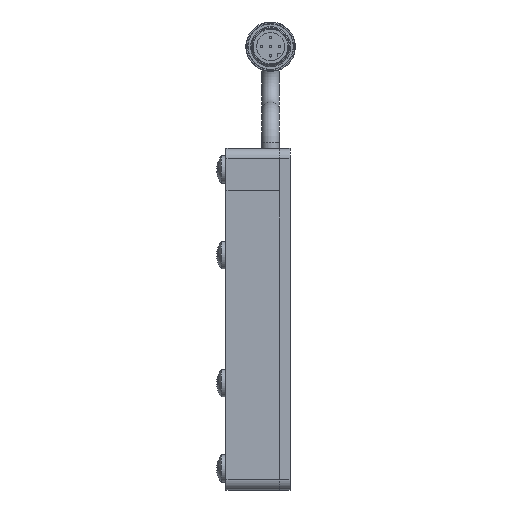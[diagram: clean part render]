
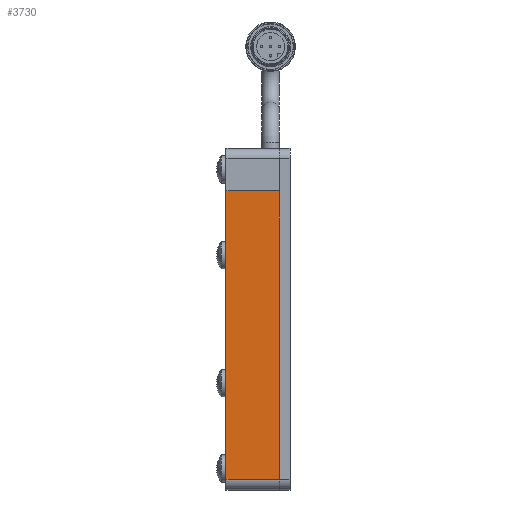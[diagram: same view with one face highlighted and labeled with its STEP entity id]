
A CAD part, left-side view. The second image highlights one B-rep face of the part: STEP entity #3730.
In plain terms, the highlighted planar face has unit normal (-1, 0, 0) as drawn and (0, 0, -1) by its records, which use the part's own axes.
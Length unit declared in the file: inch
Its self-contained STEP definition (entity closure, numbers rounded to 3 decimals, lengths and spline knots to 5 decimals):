
#372 = EDGE_CURVE ( 'NONE', #8029, #6136, #3649, .T. ) ;
#423 = AXIS2_PLACEMENT_3D ( 'NONE', #13426, #15998, #12522 ) ;
#808 = LINE ( 'NONE', #6285, #9118 ) ;
#1800 = VERTEX_POINT ( 'NONE', #8893 ) ;
#2225 = EDGE_LOOP ( 'NONE', ( #5068, #2943, #4163, #11742 ) ) ;
#2800 = DIRECTION ( 'NONE',  ( -1., 0., 0. ) ) ;
#2861 = DIRECTION ( 'NONE',  ( 0., 1., 0. ) ) ;
#2943 = ORIENTED_EDGE ( 'NONE', *, *, #15924, .T. ) ;
#3114 = CARTESIAN_POINT ( 'NONE',  ( -1.5, -0.3125, -0.25 ) ) ;
#3567 = CARTESIAN_POINT ( 'NONE',  ( -2., 0.3125, -0.25 ) ) ;
#3649 = LINE ( 'NONE', #3567, #15579 ) ;
#3730 = ADVANCED_FACE ( 'NONE', ( #15003 ), #8279, .F. ) ;
#4163 = ORIENTED_EDGE ( 'NONE', *, *, #17345, .T. ) ;
#4348 = EDGE_CURVE ( 'NONE', #1800, #6136, #8345, .T. ) ;
#5068 = ORIENTED_EDGE ( 'NONE', *, *, #372, .F. ) ;
#6025 = DIRECTION ( 'NONE',  ( 0., -1., 0. ) ) ;
#6136 = VERTEX_POINT ( 'NONE', #15820 ) ;
#6285 = CARTESIAN_POINT ( 'NONE',  ( 1.875, 0.3125, -0.25 ) ) ;
#8029 = VERTEX_POINT ( 'NONE', #12059 ) ;
#8279 = PLANE ( 'NONE',  #423 ) ;
#8345 = LINE ( 'NONE', #3114, #11982 ) ;
#8690 = VERTEX_POINT ( 'NONE', #16205 ) ;
#8893 = CARTESIAN_POINT ( 'NONE',  ( -1.5, -0.3125, -0.25 ) ) ;
#9118 = VECTOR ( 'NONE', #6025, 39.37008 ) ;
#9517 = LINE ( 'NONE', #14928, #14134 ) ;
#11742 = ORIENTED_EDGE ( 'NONE', *, *, #4348, .T. ) ;
#11982 = VECTOR ( 'NONE', #2861, 39.37008 ) ;
#12059 = CARTESIAN_POINT ( 'NONE',  ( 1.875, 0.3125, -0.25 ) ) ;
#12522 = DIRECTION ( 'NONE',  ( 1., 0., 0. ) ) ;
#13426 = CARTESIAN_POINT ( 'NONE',  ( -2., 0.3125, -0.25 ) ) ;
#14134 = VECTOR ( 'NONE', #2800, 39.37008 ) ;
#14359 = DIRECTION ( 'NONE',  ( -1., 0., 0. ) ) ;
#14928 = CARTESIAN_POINT ( 'NONE',  ( -2., -0.3125, -0.25 ) ) ;
#15003 = FACE_OUTER_BOUND ( 'NONE', #2225, .T. ) ;
#15579 = VECTOR ( 'NONE', #14359, 39.37008 ) ;
#15820 = CARTESIAN_POINT ( 'NONE',  ( -1.5, 0.3125, -0.25 ) ) ;
#15924 = EDGE_CURVE ( 'NONE', #8029, #8690, #808, .T. ) ;
#15998 = DIRECTION ( 'NONE',  ( 0., 0., 1. ) ) ;
#16205 = CARTESIAN_POINT ( 'NONE',  ( 1.875, -0.3125, -0.25 ) ) ;
#17345 = EDGE_CURVE ( 'NONE', #8690, #1800, #9517, .T. ) ;
